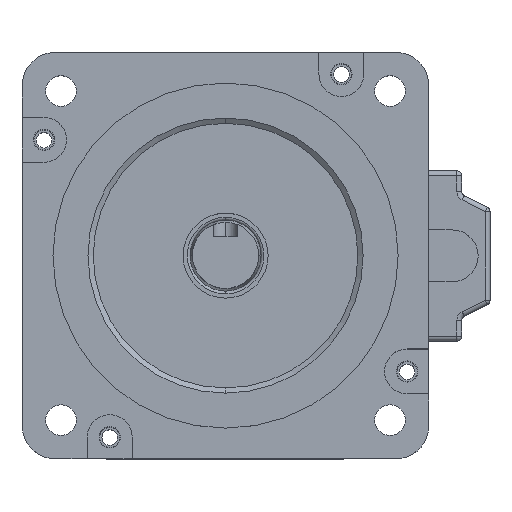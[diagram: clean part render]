
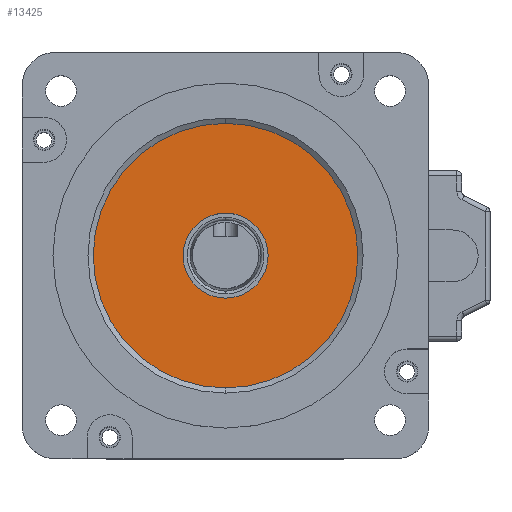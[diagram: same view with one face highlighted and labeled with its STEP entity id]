
A CAD part, top view. The second image highlights one B-rep face of the part: STEP entity #13425.
In plain terms, the highlighted planar face has unit normal (0, 0, 1) as drawn and (0, 0, -1) by its records, which use the part's own axes.
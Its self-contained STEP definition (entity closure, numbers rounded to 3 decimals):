
#803 = EDGE_CURVE ( 'NONE', #16269, #23238, #31068, .T. ) ;
#4911 = CIRCLE ( 'NONE', #9290, 9. ) ;
#4974 = CARTESIAN_POINT ( 'NONE',  ( -9., 0., -0.8 ) ) ;
#5691 = ORIENTED_EDGE ( 'NONE', *, *, #17515, .F. ) ;
#5839 = FACE_BOUND ( 'NONE', #12404, .T. ) ;
#5852 = CARTESIAN_POINT ( 'NONE',  ( -27.987, 0., -0.8 ) ) ;
#6021 = DIRECTION ( 'NONE',  ( 0., 0., -1. ) ) ;
#6450 = EDGE_CURVE ( 'NONE', #23238, #16269, #4911, .T. ) ;
#7723 = VERTEX_POINT ( 'NONE', #5852 ) ;
#8427 = DIRECTION ( 'NONE',  ( -1., 0., 0. ) ) ;
#9132 = AXIS2_PLACEMENT_3D ( 'NONE', #15461, #25997, #12843 ) ;
#9290 = AXIS2_PLACEMENT_3D ( 'NONE', #22108, #6021, #8427 ) ;
#9905 = CARTESIAN_POINT ( 'NONE',  ( 27.987, 0., -0.8 ) ) ;
#10862 = DIRECTION ( 'NONE',  ( -1., 0., 0. ) ) ;
#12299 = ORIENTED_EDGE ( 'NONE', *, *, #803, .F. ) ;
#12404 = EDGE_LOOP ( 'NONE', ( #12299, #31147 ) ) ;
#12843 = DIRECTION ( 'NONE',  ( 1., 0., 0. ) ) ;
#13425 = ADVANCED_FACE ( 'NONE', ( #5839, #23679 ), #23801, .T. ) ;
#13544 = CIRCLE ( 'NONE', #9132, 27.987 ) ;
#14352 = DIRECTION ( 'NONE',  ( 1., 0., 0. ) ) ;
#15461 = CARTESIAN_POINT ( 'NONE',  ( 0., 0., -0.8 ) ) ;
#16231 = CARTESIAN_POINT ( 'NONE',  ( 0., 27.987, -0.8 ) ) ;
#16269 = VERTEX_POINT ( 'NONE', #26112 ) ;
#17515 = EDGE_CURVE ( 'NONE', #7723, #26961, #31839, .T. ) ;
#18076 = ORIENTED_EDGE ( 'NONE', *, *, #33544, .F. ) ;
#18424 = EDGE_LOOP ( 'NONE', ( #5691, #18076 ) ) ;
#18472 = CARTESIAN_POINT ( 'NONE',  ( 0., 0., -0.8 ) ) ;
#18957 = AXIS2_PLACEMENT_3D ( 'NONE', #18472, #31430, #20732 ) ;
#19385 = DIRECTION ( 'NONE',  ( 0., 0., 1. ) ) ;
#19709 = AXIS2_PLACEMENT_3D ( 'NONE', #16231, #21606, #10862 ) ;
#20732 = DIRECTION ( 'NONE',  ( -1., 0., 0. ) ) ;
#21606 = DIRECTION ( 'NONE',  ( 0., 0., -1. ) ) ;
#22108 = CARTESIAN_POINT ( 'NONE',  ( 0., 0., -0.8 ) ) ;
#23238 = VERTEX_POINT ( 'NONE', #4974 ) ;
#23679 = FACE_OUTER_BOUND ( 'NONE', #18424, .T. ) ;
#23801 = PLANE ( 'NONE',  #19709 ) ;
#25997 = DIRECTION ( 'NONE',  ( 0., 0., 1. ) ) ;
#26112 = CARTESIAN_POINT ( 'NONE',  ( 9., 0., -0.8 ) ) ;
#26961 = VERTEX_POINT ( 'NONE', #9905 ) ;
#29622 = AXIS2_PLACEMENT_3D ( 'NONE', #30057, #19385, #14352 ) ;
#30057 = CARTESIAN_POINT ( 'NONE',  ( 0., 0., -0.8 ) ) ;
#31068 = CIRCLE ( 'NONE', #18957, 9. ) ;
#31147 = ORIENTED_EDGE ( 'NONE', *, *, #6450, .F. ) ;
#31430 = DIRECTION ( 'NONE',  ( 0., 0., -1. ) ) ;
#31839 = CIRCLE ( 'NONE', #29622, 27.987 ) ;
#33544 = EDGE_CURVE ( 'NONE', #26961, #7723, #13544, .T. ) ;
